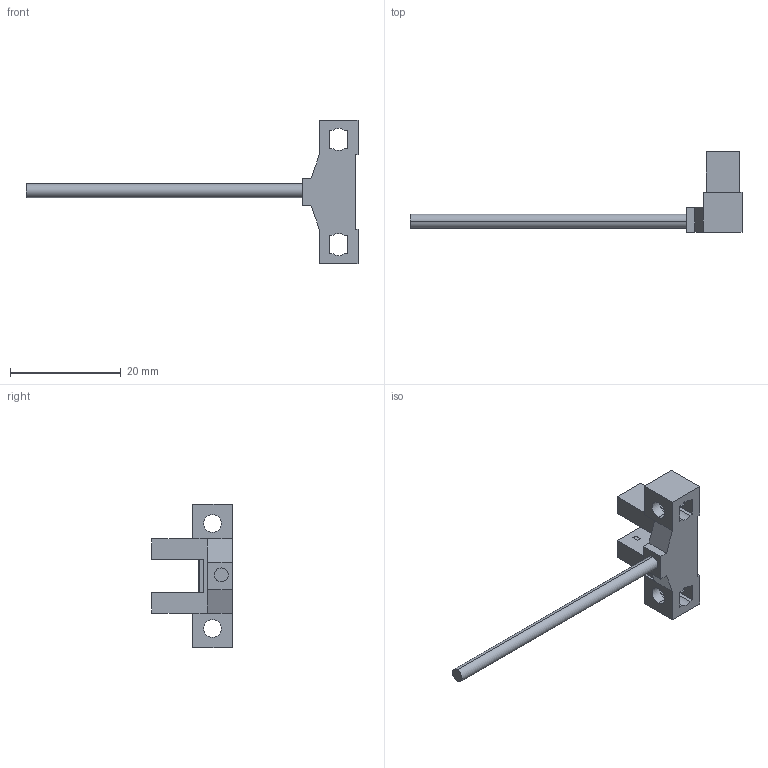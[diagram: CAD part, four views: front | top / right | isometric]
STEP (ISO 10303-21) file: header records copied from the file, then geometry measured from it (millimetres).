
FILE_DESCRIPTION (( 'STEP AP203' ), '1' );
FILE_NAME ('pm-l45.STEP', '2015-12-04T07:42:31', ( '' ), ( '' ), 'SwSTEP 2.0', 'SolidWorks 2014', '' );
FILE_SCHEMA (( 'CONFIG_CONTROL_DESIGN' ));
Length unit declared in the file: millimetre
Products named in the file (1): pm-l45
Bounding box: 60 x 14.6 x 26 mm (x, y, z)
Volume: 1644.1 mm3; surface area: 1733.1 mm2
Topology: 1 solids, 1 shells, 89 faces, 240 edges, 158 vertices
Faces by surface type: plane 73, cylinder 16
Entity records: 2859 total; most frequent: CARTESIAN_POINT 488, ORIENTED_EDGE 480, DIRECTION 452, EDGE_CURVE 240, VECTOR 208, LINE 208, VERTEX_POINT 158, AXIS2_PLACEMENT_3D 122
